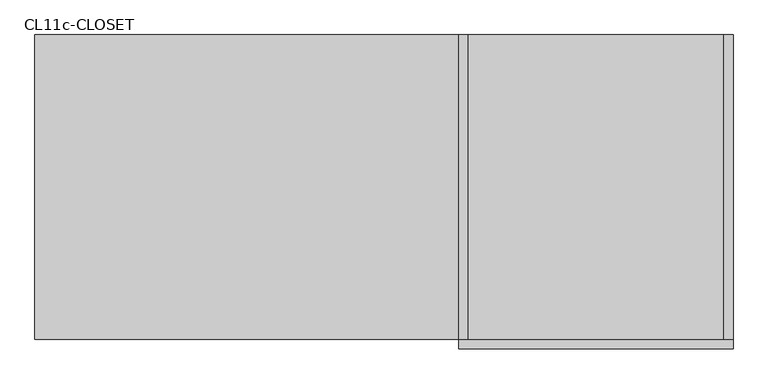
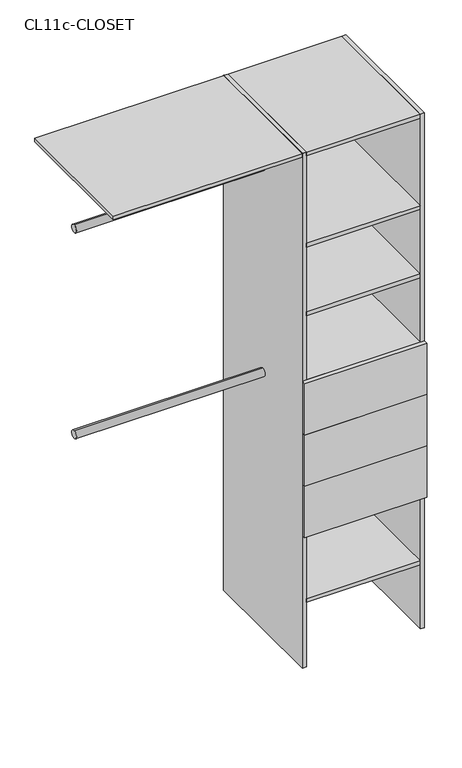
"""IFC4 building model written with IfcOpenShell, lengths in millimetres: furniture geometry, Closet 1estantes-1tubos_sin laterales : CL11c-CLOSET."""

from ifc_helpers import new_model, si_unit, point, frame, frame_2d, origin, origin_with_axes, place, context, project, spatial, polyline, circle_curve, trimmed, segment, composite_curve, outline, extrude, source, transform, mapped, element, save


def cl11c_closet_27dfa128(model_context):
    return source(origin(), model_context, "Body", "SweptSolid", [
        extrude(outline(polyline([(225.0, 100.0), (210.0, 100.0), (210.0, 600.0), (225.0, 600.0), (225.0, 100.0)])), origin_with_axes(), (0.0, 0.0, 1.0), 2000.0),
        extrude(outline(polyline([(-210.0, 100.0), (-225.0, 100.0), (-225.0, 600.0), (-210.0, 600.0), (-210.0, 100.0)])), origin_with_axes(), (0.0, 0.0, 1.0), 2000.0),
        extrude(outline(polyline([(225.0, 100.0), (225.0, 85.0), (-225.0, 85.0), (-225.0, 100.0), (225.0, 100.0)])), frame((0.0, 0.0, 915.0), z_axis=(0.0, 0.0, 1.0), x_axis=(1.0, 0.0, 0.0)), (0.0, 0.0, 1.0), 200.0),
        extrude(outline(polyline([(225.0, 100.0), (225.0, 85.0), (-225.0, 85.0), (-225.0, 100.0), (225.0, 100.0)])), frame((0.0, 0.0, 715.0), z_axis=(0.0, 0.0, 1.0), x_axis=(1.0, 0.0, 0.0)), (0.0, 0.0, 1.0), 200.0),
        extrude(outline(polyline([(225.0, 100.0), (225.0, 85.0), (-225.0, 85.0), (-225.0, 100.0), (225.0, 100.0)])), frame((0.0, 0.0, 515.0), z_axis=(0.0, 0.0, 1.0), x_axis=(1.0, 0.0, 0.0)), (0.0, 0.0, 1.0), 200.0),
        extrude(outline(polyline([(210.0, 100.0), (-210.0, 100.0), (-210.0, 600.0), (210.0, 600.0), (210.0, 100.0)])), frame((0.0, 0.0, 1100.0), z_axis=(0.0, 0.0, 1.0), x_axis=(1.0, 0.0, 0.0)), (0.0, 0.0, 1.0), 15.0),
        extrude(outline(composite_curve([segment(trimmed(circle_curve(frame_2d((350.0, 1000.0)), 15.0), [point((350.0, 1015.0))], [point((350.0, 985.0))], False, "CARTESIAN"), True, "CONTINUOUS"), segment(trimmed(circle_curve(frame_2d((350.0, 1000.0)), 15.0), [point((350.0, 985.0))], [point((350.0, 1015.0))], False, "CARTESIAN"), True, "CONTINUOUS")], self_intersect=False)), frame((-920.0, 0.0, 0.0), z_axis=(1.0, 0.0, 0.0), x_axis=(0.0, 1.0, 0.0)), (0.0, 0.0, 1.0), 695.0),
        extrude(outline(composite_curve([segment(trimmed(circle_curve(frame_2d((350.0, 1800.0)), 15.0), [point((350.0, 1815.0))], [point((350.0, 1785.0))], False, "CARTESIAN"), True, "CONTINUOUS"), segment(trimmed(circle_curve(frame_2d((350.0, 1800.0)), 15.0), [point((350.0, 1785.0))], [point((350.0, 1815.0))], False, "CARTESIAN"), True, "CONTINUOUS")], self_intersect=False)), frame((-920.0, 0.0, 0.0), z_axis=(1.0, 0.0, 0.0), x_axis=(0.0, 1.0, 0.0)), (0.0, 0.0, 1.0), 695.0),
        extrude(outline(polyline([(210.0, 100.0), (-210.0, 100.0), (-210.0, 600.0), (210.0, 600.0), (210.0, 100.0)])), frame((0.0, 0.0, 250.0), z_axis=(0.0, 0.0, 1.0), x_axis=(1.0, 0.0, 0.0)), (0.0, 0.0, 1.0), 15.0),
        extrude(outline(polyline([(210.0, 100.0), (-210.0, 100.0), (-210.0, 600.0), (210.0, 600.0), (210.0, 100.0)])), frame((0.0, 0.0, 515.0), z_axis=(0.0, 0.0, 1.0), x_axis=(1.0, 0.0, 0.0)), (0.0, 0.0, 1.0), 15.0),
        extrude(outline(polyline([(210.0, 100.0), (-210.0, 100.0), (-210.0, 600.0), (210.0, 600.0), (210.0, 100.0)])), frame((0.0, 0.0, 1365.0), z_axis=(0.0, 0.0, 1.0), x_axis=(1.0, 0.0, 0.0)), (0.0, 0.0, 1.0), 15.0),
        extrude(outline(polyline([(210.0, 100.0), (-210.0, 100.0), (-210.0, 600.0), (210.0, 600.0), (210.0, 100.0)])), frame((0.0, 0.0, 1630.0), z_axis=(0.0, 0.0, 1.0), x_axis=(1.0, 0.0, 0.0)), (0.0, 0.0, 1.0), 15.0),
        extrude(outline(polyline([(-210.0, 100.0), (-920.0, 100.0), (-920.0, 600.0), (-210.0, 600.0), (-210.0, 100.0)])), frame((0.0, 0.0, 1985.0), z_axis=(0.0, 0.0, 1.0), x_axis=(1.0, 0.0, 0.0)), (0.0, 0.0, 1.0), 15.0),
        extrude(outline(polyline([(210.0, 100.0), (-210.0, 100.0), (-210.0, 600.0), (210.0, 600.0), (210.0, 100.0)])), frame((0.0, 0.0, 1985.0), z_axis=(0.0, 0.0, 1.0), x_axis=(1.0, 0.0, 0.0)), (0.0, 0.0, 1.0), 15.0),
    ])


if __name__ == "__main__":
    model = new_model("IFC4")
    model_context = context("Model", 3, world=origin())
    ifc_project = project(units=[si_unit("LENGTHUNIT", "METRE", prefix="MILLI")], contexts=[model_context])
    site = spatial("IfcSite", under=ifc_project)
    building = spatial("IfcBuilding", under=site)
    placement = place(None, origin())
    cl11c_closet_shape = cl11c_closet_27dfa128(model_context)
    element("IfcFurniture", 1, ObjectType="Closet 1estantes-1tubos_sin laterales : CL11c-CLOSET", at=placement, inside=building, context=model_context, shape_type="MappedRepresentation", body=[
        mapped(cl11c_closet_shape, transform((0.0, 0.0, 0.0), x_axis=(1.0, 0.0, 0.0), y_axis=(0.0, 1.0, 0.0), z_axis=(0.0, 0.0, 1.0))),
    ])
    save(model, "model.ifc")
